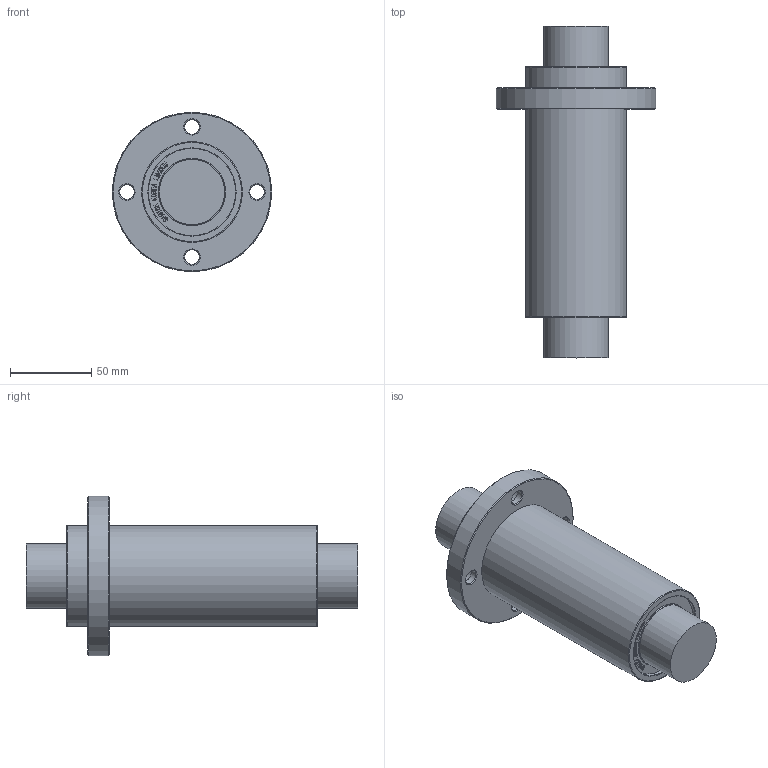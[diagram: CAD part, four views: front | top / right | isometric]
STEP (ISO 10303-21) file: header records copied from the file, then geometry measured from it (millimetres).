
FILE_DESCRIPTION(/* description */ (''),/* implementation_level */ '2;1');
FILE_NAME(/* name */ 'W:\(01) 2024년 홈페이지 CAD파일 최신화\LMEFP_L\IPT\LMEF40LUU.stp',/* time_stamp */ '2025-01-25T11:49:48+09:00',/* author */ ('서우현'),/* organization */ (''),/* preprocessor_version */ 'ST-DEVELOPER v17.2',/* originating_system */ 'Autodesk Inventor 2019',/* authorisation */ '');
FILE_SCHEMA (('AUTOMOTIVE_DESIGN { 1 0 10303 214 3 1 1 }'));
Length unit declared in the file: millimetre
Products named in the file (1): LM5
Bounding box: 98 x 204 x 98 mm (x, y, z)
Volume: 575465.3 mm3; surface area: 55278.6 mm2
Topology: 1 solids, 1 shells, 845 faces, 2373 edges, 1588 vertices
Faces by surface type: bspline 572, plane 242, cylinder 15, cone 14, torus 2
Full cylindrical faces by diameter (mm): 9 x4, 14 x4, 40 x2, 53.65 x2, 62 x2, 98 x1
Entity records: 29037 total; most frequent: CARTESIAN_POINT 10635, ORIENTED_EDGE 4746, EDGE_CURVE 2373, DIRECTION 1859, VERTEX_POINT 1588, LINE 1147, VECTOR 1147, B_SPLINE_CURVE_WITH_KNOTS 1144
